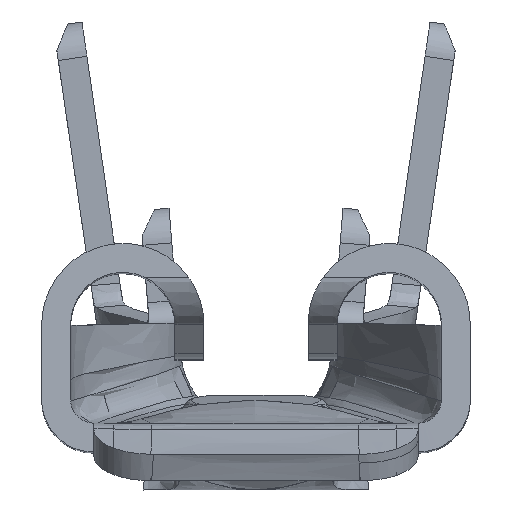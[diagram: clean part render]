
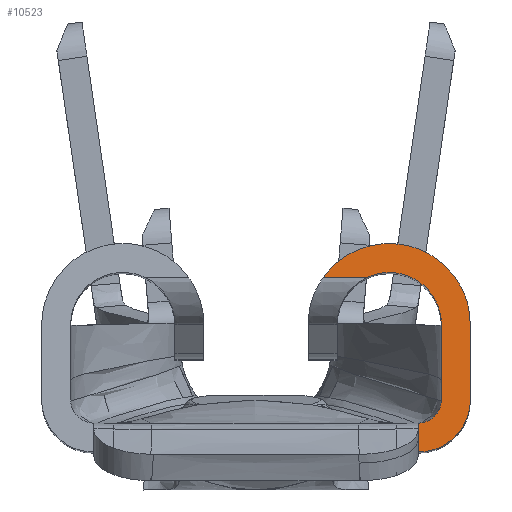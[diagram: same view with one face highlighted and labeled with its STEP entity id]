
A CAD part, top view. The second image highlights one B-rep face of the part: STEP entity #10523.
In plain terms, the highlighted planar face has unit normal (0, 0.07, 0.998).
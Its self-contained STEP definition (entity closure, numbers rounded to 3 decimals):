
#1250=DIRECTION('',(1.,0.,0.));
#1251=VECTOR('',#1250,0.377);
#1252=CARTESIAN_POINT('',(0.58,1.506,
-0.105));
#1253=LINE('',#1252,#1251);
#1257=CARTESIAN_POINT('',(0.58,1.506,
-0.105));
#1291=CARTESIAN_POINT('',(1.85,1.1,-0.077));
#1292=CARTESIAN_POINT('',(1.85,1.146,-0.08));
#1293=CARTESIAN_POINT('',(1.843,1.213,
-0.085));
#1294=CARTESIAN_POINT('',(1.818,1.319,
-0.092));
#1295=CARTESIAN_POINT('',(1.777,1.418,
-0.099));
#1296=CARTESIAN_POINT('',(1.719,1.512,
-0.106));
#1297=CARTESIAN_POINT('',(1.635,1.612,
-0.113));
#1298=CARTESIAN_POINT('',(1.518,1.703,
-0.119));
#1299=CARTESIAN_POINT('',(1.365,1.773,
-0.124));
#1300=CARTESIAN_POINT('',(1.201,1.805,
-0.126));
#1301=CARTESIAN_POINT('',(1.053,1.798,
-0.126));
#1302=CARTESIAN_POINT('',(0.926,1.766,
-0.123));
#1303=CARTESIAN_POINT('',(0.824,1.723,
-0.12));
#1304=CARTESIAN_POINT('',(0.733,1.667,
-0.117));
#1305=CARTESIAN_POINT('',(0.652,1.594,
-0.111));
#1306=CARTESIAN_POINT('',(0.606,1.543,
-0.108));
#1307=CARTESIAN_POINT('',(0.58,1.506,
-0.105));
#1312=DIRECTION('',(0.,0.998,-0.07));
#1313=VECTOR('',#1312,0.651);
#1314=CARTESIAN_POINT('',(1.85,0.45,-0.031));
#1315=LINE('',#1314,#1313);
#2846=CARTESIAN_POINT('',(1.6,0.45,-0.031));
#2847=CARTESIAN_POINT('',(1.6,0.428,-0.03));
#2848=CARTESIAN_POINT('',(1.593,0.387,
-0.027));
#2849=CARTESIAN_POINT('',(1.564,0.33,
-0.023));
#2850=CARTESIAN_POINT('',(1.52,0.285,
-0.02));
#2851=CARTESIAN_POINT('',(1.462,0.257,
-0.018));
#2852=CARTESIAN_POINT('',(1.422,0.25,
-0.017));
#2853=CARTESIAN_POINT('',(1.4,0.25,
-0.017));
#2865=DIRECTION('',(0.,-0.998,0.07));
#2866=VECTOR('',#2865,0.652);
#2867=CARTESIAN_POINT('',(1.6,1.1,-0.077));
#2868=LINE('',#2867,#2866);
#2892=CARTESIAN_POINT('',(0.957,1.506,
-0.105));
#2893=CARTESIAN_POINT('',(1.01,1.532,
-0.107));
#2894=CARTESIAN_POINT('',(1.098,1.552,
-0.109));
#2895=CARTESIAN_POINT('',(1.246,1.549,
-0.108));
#2896=CARTESIAN_POINT('',(1.397,1.491,
-0.104));
#2897=CARTESIAN_POINT('',(1.515,1.38,
-0.097));
#2898=CARTESIAN_POINT('',(1.58,1.247,
-0.087));
#2899=CARTESIAN_POINT('',(1.6,1.159,-0.081));
#2900=CARTESIAN_POINT('',(1.6,1.1,-0.077));
#2919=CARTESIAN_POINT('',(1.85,0.45,-0.031));
#2920=CARTESIAN_POINT('',(1.85,0.41,-0.029));
#2921=CARTESIAN_POINT('',(1.84,0.332,
-0.023));
#2922=CARTESIAN_POINT('',(1.794,0.222,
-0.016));
#2923=CARTESIAN_POINT('',(1.722,0.128,
-0.009));
#2924=CARTESIAN_POINT('',(1.628,0.056,
-0.004));
#2925=CARTESIAN_POINT('',(1.518,0.011,
-0.001));
#2926=CARTESIAN_POINT('',(1.44,0.,
0.));
#2927=CARTESIAN_POINT('',(1.4,0.,
0.));
#3144=DIRECTION('',(0.,-0.998,0.069));
#3145=VECTOR('',#3144,0.25);
#3146=CARTESIAN_POINT('',(1.4,0.25,
-0.017));
#3147=LINE('',#3146,#3145);
#5390=VERTEX_POINT('',#1257);
#5391=CARTESIAN_POINT('',(0.957,1.506,
-0.105));
#5392=VERTEX_POINT('',#5391);
#5397=VERTEX_POINT('',#2900);
#5398=VERTEX_POINT('',#1291);
#5399=CARTESIAN_POINT('',(1.85,0.45,-0.031));
#5400=VERTEX_POINT('',#5399);
#5401=VERTEX_POINT('',#2927);
#5402=CARTESIAN_POINT('',(1.4,0.25,
-0.017));
#5403=VERTEX_POINT('',#5402);
#5404=VERTEX_POINT('',#2846);
#10506=CARTESIAN_POINT('',(0.422,0.,0.));
#10507=DIRECTION('',(0.,-0.07,-0.998));
#10508=DIRECTION('',(-1.,0.,0.));
#10509=AXIS2_PLACEMENT_3D('',#10506,#10507,#10508);
#10510=PLANE('',#10509);
#10511=ORIENTED_EDGE('',*,*,#7091,.F.);
#10512=ORIENTED_EDGE('',*,*,#7108,.F.);
#10513=ORIENTED_EDGE('',*,*,#7123,.F.);
#10515=ORIENTED_EDGE('',*,*,#10514,.T.);
#10517=ORIENTED_EDGE('',*,*,#10516,.F.);
#10518=ORIENTED_EDGE('',*,*,#10467,.F.);
#10519=ORIENTED_EDGE('',*,*,#10484,.F.);
#10520=ORIENTED_EDGE('',*,*,#10497,.F.);
#10521=EDGE_LOOP('',(#10511,#10512,#10513,#10515,#10517,#10518,#10519,#10520));
#10522=FACE_OUTER_BOUND('',#10521,.F.);
#10523=ADVANCED_FACE('',(#10522),#10510,.F.);
#1308=B_SPLINE_CURVE_WITH_KNOTS('',3,(#1291,#1292,#1293,#1294,#1295,#1296,#1297,
#1298,#1299,#1300,#1301,#1302,#1303,#1304,#1305,#1306,#1307),.UNSPECIFIED.,.F.,
.F.,(4,1,1,1,1,1,1,1,1,1,1,1,1,1,4),(0.,0.031,0.063,0.125,0.188,
0.25,0.375,0.5,0.625,0.75,0.813,0.875,0.938,0.969,1.),
.UNSPECIFIED.);
#2854=B_SPLINE_CURVE_WITH_KNOTS('',3,(#2846,#2847,#2848,#2849,#2850,#2851,#2852,
#2853),.UNSPECIFIED.,.F.,.F.,(4,1,1,1,1,4),(0.,0.2,0.4,0.6,0.8,1.),
.UNSPECIFIED.);
#2901=B_SPLINE_CURVE_WITH_KNOTS('',3,(#2892,#2893,#2894,#2895,#2896,#2897,#2898,
#2899,#2900),.UNSPECIFIED.,.F.,.F.,(4,1,1,1,1,1,4),(0.,0.125,0.25,0.5,
0.75,0.875,1.),.UNSPECIFIED.);
#2928=B_SPLINE_CURVE_WITH_KNOTS('',3,(#2919,#2920,#2921,#2922,#2923,#2924,#2925,
#2926,#2927),.UNSPECIFIED.,.F.,.F.,(4,1,1,1,1,1,4),(0.,0.167,
0.333,0.5,0.667,0.833,1.),
.UNSPECIFIED.);
#7091=EDGE_CURVE('',#5390,#5392,#1253,.T.);
#7108=EDGE_CURVE('',#5398,#5390,#1308,.T.);
#7123=EDGE_CURVE('',#5400,#5398,#1315,.T.);
#10467=EDGE_CURVE('',#5404,#5403,#2854,.T.);
#10484=EDGE_CURVE('',#5397,#5404,#2868,.T.);
#10497=EDGE_CURVE('',#5392,#5397,#2901,.T.);
#10514=EDGE_CURVE('',#5400,#5401,#2928,.T.);
#10516=EDGE_CURVE('',#5403,#5401,#3147,.T.);
